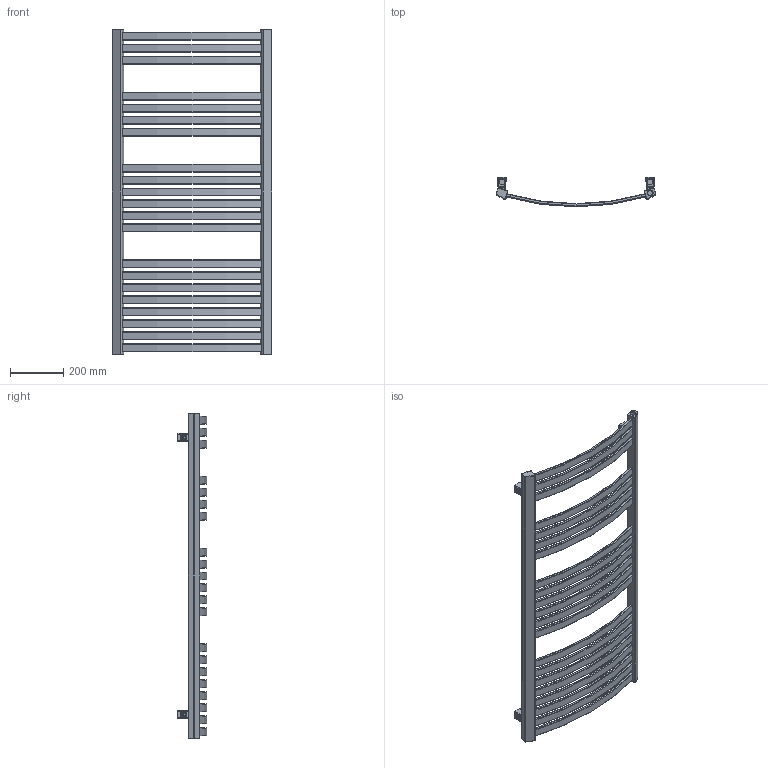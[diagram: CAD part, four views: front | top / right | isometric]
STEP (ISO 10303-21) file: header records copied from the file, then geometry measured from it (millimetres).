
FILE_DESCRIPTION((''),'2;1');
FILE_NAME('Z:\R\G\P\RGPH02 - Grzejnik Dexter\Work\Inventor\Marketing\Autocad\DE-1220-600 SX.stp','2012-07-12T13:30:50',('KurKa'),(''),'Autodesk Inventor 2012','Autodesk Inventor 2012','');
FILE_SCHEMA(('AUTOMOTIVE_DESIGN { 1 0 10303 214 1 1 1 1 }'));
Length unit declared in the file: millimetre
Products named in the file (10): DE-1220-600 SX; DE-1220-600-1-5-8; MKT42-00-B v0.2; MKT42-01 v0; MKT42-02-B v0; PN_M-82019; M6; NK-S10-M5-3-R; PN-87/M-82302 M5 x 22; PN-87/M-82302  M5 x 12; MKT42-03 v0.2
Assembly tree (12 placements, depth 3):
  DE-1220-600 SX
    DE-1220-600-1-5-8
    MKT42-00-B v0.2  x4
      MKT42-01 v0
      MKT42-02-B v0
      PN_M-82019; M6
      NK-S10-M5-3-R
      PN-87/M-82302 M5 x 22
      PN-87/M-82302  M5 x 12
      MKT42-03 v0.2
Bounding box: 599.87 x 109.43 x 1220 mm (x, y, z)
Volume: 6380870.7 mm3; surface area: 1271373.7 mm2
Topology: 29 solids, 29 shells, 1605 faces, 4375 edges, 2849 vertices
Faces by surface type: plane 1025, cylinder 369, torus 127, cone 44, bspline 40
Full cylindrical faces by diameter (mm): 4.134 x4, 5 x8, 5.5 x12, 6.3 x4, 8.5 x8, 10 x4, 18 x4, 18.631 x3
Entity records: 18928 total; most frequent: CARTESIAN_POINT 3719, DIRECTION 3248, ORIENTED_EDGE 3072, EDGE_CURVE 1536, AXIS2_PLACEMENT_3D 1185, VERTEX_POINT 1014, VECTOR 878, LINE 878
